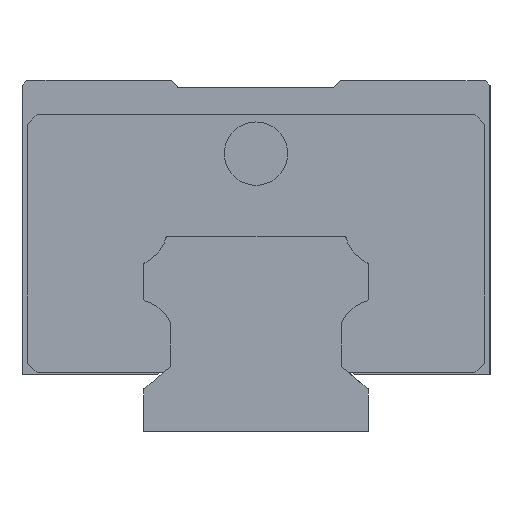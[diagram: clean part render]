
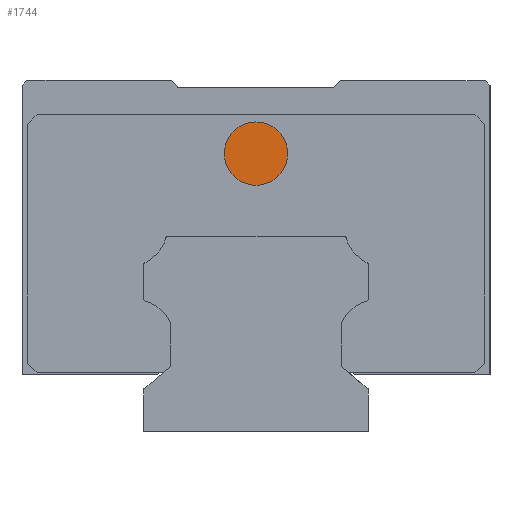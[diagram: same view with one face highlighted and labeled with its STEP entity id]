
A CAD part, left-side view. The second image highlights one B-rep face of the part: STEP entity #1744.
In plain terms, the highlighted planar face has unit normal (-1, 0, 0).
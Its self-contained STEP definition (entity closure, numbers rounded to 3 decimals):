
#225 = DIRECTION ( 'NONE',  ( 0., 0., -1. ) ) ;
#334 = AXIS2_PLACEMENT_3D ( 'NONE', #1154, #1983, #5068 ) ;
#441 = ORIENTED_EDGE ( 'NONE', *, *, #5268, .F. ) ;
#496 = EDGE_LOOP ( 'NONE', ( #441, #4131 ) ) ;
#542 = FACE_OUTER_BOUND ( 'NONE', #496, .T. ) ;
#606 = CIRCLE ( 'NONE', #2243, 3.25 ) ;
#1102 = CARTESIAN_POINT ( 'NONE',  ( -44., 0., 31.75 ) ) ;
#1154 = CARTESIAN_POINT ( 'NONE',  ( -44., 0., 28.5 ) ) ;
#1508 = CIRCLE ( 'NONE', #334, 3.25 ) ;
#1661 = CARTESIAN_POINT ( 'NONE',  ( -44., 0., 28.5 ) ) ;
#1744 = ADVANCED_FACE ( 'NONE', ( #542 ), #2269, .T. ) ;
#1983 = DIRECTION ( 'NONE',  ( 1., 0., 0. ) ) ;
#2205 = EDGE_CURVE ( 'NONE', #4979, #5204, #606, .T. ) ;
#2243 = AXIS2_PLACEMENT_3D ( 'NONE', #1661, #4054, #4218 ) ;
#2269 = PLANE ( 'NONE',  #4013 ) ;
#3573 = DIRECTION ( 'NONE',  ( -1., 0., 0. ) ) ;
#4009 = CARTESIAN_POINT ( 'NONE',  ( -44., 0., 28.5 ) ) ;
#4013 = AXIS2_PLACEMENT_3D ( 'NONE', #4009, #3573, #225 ) ;
#4054 = DIRECTION ( 'NONE',  ( 1., 0., 0. ) ) ;
#4131 = ORIENTED_EDGE ( 'NONE', *, *, #2205, .F. ) ;
#4218 = DIRECTION ( 'NONE',  ( 0., 0., -1. ) ) ;
#4979 = VERTEX_POINT ( 'NONE', #5588 ) ;
#5068 = DIRECTION ( 'NONE',  ( 0., 0., -1. ) ) ;
#5204 = VERTEX_POINT ( 'NONE', #1102 ) ;
#5268 = EDGE_CURVE ( 'NONE', #5204, #4979, #1508, .T. ) ;
#5588 = CARTESIAN_POINT ( 'NONE',  ( -44., 0., 25.25 ) ) ;
